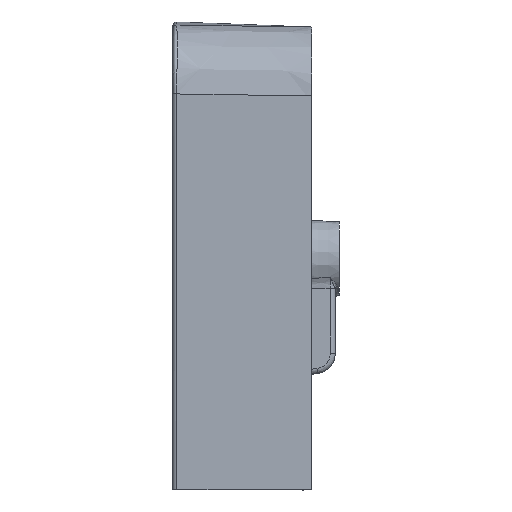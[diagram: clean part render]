
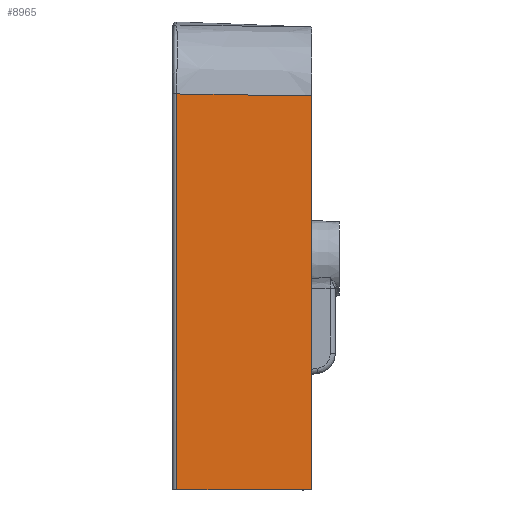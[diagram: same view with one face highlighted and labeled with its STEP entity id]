
A CAD part, left-side view. The second image highlights one B-rep face of the part: STEP entity #8965.
In plain terms, the highlighted planar face has unit normal (-1, -0.015, 0).
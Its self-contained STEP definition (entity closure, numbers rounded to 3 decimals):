
#2493 = VECTOR ( 'NONE', #76817, 39.37 ) ;
#3110 = CARTESIAN_POINT ( 'NONE',  ( -11.758, -5.32, 6.233 ) ) ;
#8187 = CARTESIAN_POINT ( 'NONE',  ( -11.81, -1.81, 6.285 ) ) ;
#8965 = ADVANCED_FACE ( 'NONE', ( #114235 ), #25372, .T. ) ;
#9997 = CARTESIAN_POINT ( 'NONE',  ( -11.758, -5.32, -8.877 ) ) ;
#14149 = CARTESIAN_POINT ( 'NONE',  ( -11.758, -5.32, 8.104 ) ) ;
#16509 = EDGE_CURVE ( 'NONE', #99912, #58290, #96339, .T. ) ;
#23386 = DIRECTION ( 'NONE',  ( 0., 0., 1. ) ) ;
#23724 = LINE ( 'NONE', #50248, #2493 ) ;
#23927 = CARTESIAN_POINT ( 'NONE',  ( -11.758, -5.32, -8.877 ) ) ;
#25372 = PLANE ( 'NONE',  #110579 ) ;
#27577 = VERTEX_POINT ( 'NONE', #3110 ) ;
#32323 = EDGE_CURVE ( 'NONE', #27577, #99912, #93398, .T. ) ;
#32586 = DIRECTION ( 'NONE',  ( 0.015, -1., 0. ) ) ;
#34392 = CARTESIAN_POINT ( 'NONE',  ( -11.76, -5.189, 6.235 ) ) ;
#40647 = VECTOR ( 'NONE', #23386, 39.37 ) ;
#43426 = CARTESIAN_POINT ( 'NONE',  ( -11.834, -0.154, -8.877 ) ) ;
#45226 = VERTEX_POINT ( 'NONE', #43426 ) ;
#48208 = ORIENTED_EDGE ( 'NONE', *, *, #16509, .T. ) ;
#48408 = ORIENTED_EDGE ( 'NONE', *, *, #52462, .T. ) ;
#49308 = LINE ( 'NONE', #23927, #88731 ) ;
#50248 = CARTESIAN_POINT ( 'NONE',  ( -11.834, -0.154, -8.877 ) ) ;
#50533 = EDGE_CURVE ( 'NONE', #45226, #95565, #49308, .T. ) ;
#51893 = DIRECTION ( 'NONE',  ( -0.015, 1., 0. ) ) ;
#52261 = CARTESIAN_POINT ( 'NONE',  ( -11.758, -5.32, 6.233 ) ) ;
#52462 = EDGE_CURVE ( 'NONE', #95565, #27577, #57994, .T. ) ;
#57865 = ORIENTED_EDGE ( 'NONE', *, *, #32323, .T. ) ;
#57994 = LINE ( 'NONE', #14149, #40647 ) ;
#58290 = VERTEX_POINT ( 'NONE', #70097 ) ;
#59992 = CARTESIAN_POINT ( 'NONE',  ( -11.761, -5.123, 6.236 ) ) ;
#61463 = EDGE_LOOP ( 'NONE', ( #48208, #74424, #89988, #48408, #57865 ) ) ;
#70097 = CARTESIAN_POINT ( 'NONE',  ( -11.834, -0.154, 6.309 ) ) ;
#73235 = EDGE_CURVE ( 'NONE', #58290, #45226, #23724, .T. ) ;
#74424 = ORIENTED_EDGE ( 'NONE', *, *, #73235, .T. ) ;
#76817 = DIRECTION ( 'NONE',  ( 0., 0., -1. ) ) ;
#78602 = CARTESIAN_POINT ( 'NONE',  ( -11.834, -0.154, 6.309 ) ) ;
#80305 = CARTESIAN_POINT ( 'NONE',  ( -11.761, -5.123, 6.236 ) ) ;
#87108 = CARTESIAN_POINT ( 'NONE',  ( -11.758, -5.32, -8.877 ) ) ;
#87250 = CARTESIAN_POINT ( 'NONE',  ( -11.785, -3.466, 6.26 ) ) ;
#88731 = VECTOR ( 'NONE', #32586, 39.37 ) ;
#89988 = ORIENTED_EDGE ( 'NONE', *, *, #50533, .T. ) ;
#93398 = B_SPLINE_CURVE_WITH_KNOTS ( 'NONE', 3,
 ( #52261, #113474, #34392, #95571 ),
 .UNSPECIFIED., .F., .F.,
 ( 4, 4 ),
 ( 0.308, 0.323 ),
 .UNSPECIFIED. ) ;
#95565 = VERTEX_POINT ( 'NONE', #9997 ) ;
#95571 = CARTESIAN_POINT ( 'NONE',  ( -11.761, -5.123, 6.236 ) ) ;
#96339 = B_SPLINE_CURVE_WITH_KNOTS ( 'NONE', 3,
 ( #80305, #87250, #8187, #78602 ),
 .UNSPECIFIED., .F., .F.,
 ( 4, 4 ),
 ( 0., 0.969 ),
 .UNSPECIFIED. ) ;
#99912 = VERTEX_POINT ( 'NONE', #59992 ) ;
#110579 = AXIS2_PLACEMENT_3D ( 'NONE', #87108, #113674, #51893 ) ;
#113474 = CARTESIAN_POINT ( 'NONE',  ( -11.759, -5.255, 6.234 ) ) ;
#113674 = DIRECTION ( 'NONE',  ( -1., -0.015, 0. ) ) ;
#114235 = FACE_OUTER_BOUND ( 'NONE', #61463, .T. ) ;
